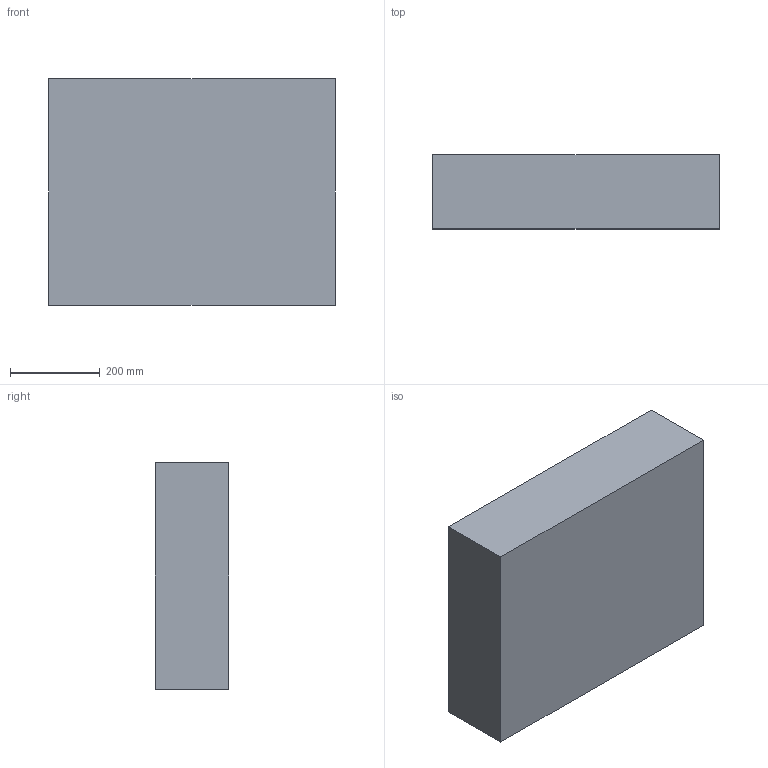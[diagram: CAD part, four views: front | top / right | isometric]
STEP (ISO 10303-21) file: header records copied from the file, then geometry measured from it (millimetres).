
FILE_DESCRIPTION (( 'STEP AP203' ), '1' );
FILE_NAME ('945_Bottom.STEP', '2014-06-12T13:42:38', ( 'Ben laptop' ), ( 'Microsoft' ), 'SwSTEP 2.0', 'SolidWorks 2014', '' );
FILE_SCHEMA (( 'CONFIG_CONTROL_DESIGN' ));
Length unit declared in the file: inch
Products named in the file (1): 945_Bottom
Bounding box: 638.12 x 164.58 x 505.43 mm (x, y, z)
Volume: 16456812 mm3; surface area: 1299114.2 mm2
Topology: 1 solids, 1 shells, 508 faces, 1207 edges, 716 vertices
Faces by surface type: cylinder 206, bspline 202, plane 68, torus 24, cone 4, sphere 4
Entity records: 30916 total; most frequent: CARTESIAN_POINT 20742, ORIENTED_EDGE 2382, DIRECTION 1774, EDGE_CURVE 1191, AXIS2_PLACEMENT_3D 742, VERTEX_POINT 716, EDGE_LOOP 539, ADVANCED_FACE 508
